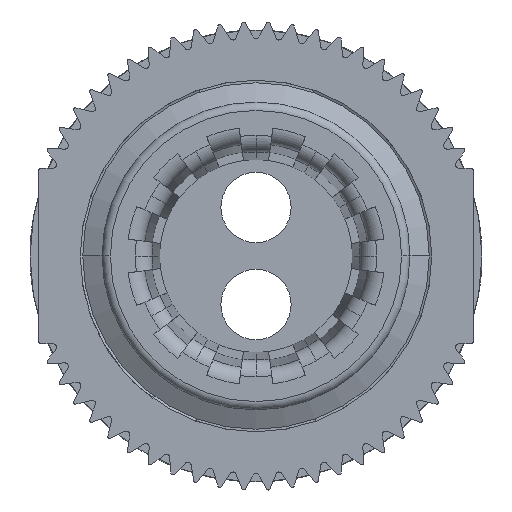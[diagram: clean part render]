
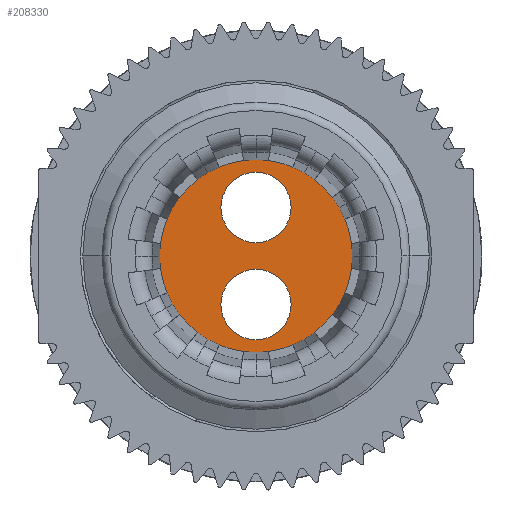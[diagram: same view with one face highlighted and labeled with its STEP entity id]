
A CAD part, left-side view. The second image highlights one B-rep face of the part: STEP entity #208330.
In plain terms, the highlighted planar face has unit normal (-1, 0, 0).
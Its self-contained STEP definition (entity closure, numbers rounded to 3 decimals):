
#207830=CARTESIAN_POINT('',(72.065,57.591,
-3.625));
#207840=DIRECTION('',(1.,0.,-0.));
#207850=DIRECTION('',(0.,0.,1.));
#207860=AXIS2_PLACEMENT_3D('',#207830,#207840,#207850);
#207870=PLANE('',#207860);
#207880=CARTESIAN_POINT('',(72.065,57.591,
0.));
#207890=DIRECTION('',(1.,0.,0.));
#207900=DIRECTION('',(0.,0.,-1.));
#207910=AXIS2_PLACEMENT_3D('',#207880,#207890,#207900);
#207920=CIRCLE('',#207910,7.25);
#207930=CARTESIAN_POINT('',(72.065,57.591,
-7.25));
#207940=VERTEX_POINT('',#207930);
#207950=CARTESIAN_POINT('',(72.065,57.591,
7.25));
#207960=VERTEX_POINT('',#207950);
#207970=EDGE_CURVE('',#207940,#207960,#207920,.T.);
#207980=ORIENTED_EDGE('',*,*,#207970,.F.);
#207990=EDGE_CURVE('',#207960,#207940,#207920,.T.);
#208000=ORIENTED_EDGE('',*,*,#207990,.F.);
#208010=EDGE_LOOP('',(#208000,#207980));
#208020=FACE_OUTER_BOUND('',#208010,.T.);
#208030=CARTESIAN_POINT('',(72.065,57.591,
2.9));
#208040=DIRECTION('',(1.,0.,0.));
#208050=DIRECTION('',(0.,-1.,0.));
#208060=AXIS2_PLACEMENT_3D('',#208030,#208040,#208050);
#208070=CIRCLE('',#208060,2.1);
#208080=CARTESIAN_POINT('',(72.065,55.491,
2.9));
#208090=VERTEX_POINT('',#208080);
#208100=CARTESIAN_POINT('',(72.065,59.691,
2.9));
#208110=VERTEX_POINT('',#208100);
#208120=EDGE_CURVE('',#208090,#208110,#208070,.T.);
#208130=ORIENTED_EDGE('',*,*,#208120,.T.);
#208140=EDGE_CURVE('',#208110,#208090,#208070,.T.);
#208150=ORIENTED_EDGE('',*,*,#208140,.T.);
#208160=EDGE_LOOP('',(#208150,#208130));
#208170=FACE_BOUND('',#208160,.T.);
#208180=CARTESIAN_POINT('',(72.065,57.591,
-2.9));
#208190=DIRECTION('',(1.,0.,0.));
#208200=DIRECTION('',(0.,-1.,0.));
#208210=AXIS2_PLACEMENT_3D('',#208180,#208190,#208200);
#208220=CIRCLE('',#208210,2.1);
#208230=CARTESIAN_POINT('',(72.065,55.491,
-2.9));
#208240=VERTEX_POINT('',#208230);
#208250=CARTESIAN_POINT('',(72.065,59.691,
-2.9));
#208260=VERTEX_POINT('',#208250);
#208270=EDGE_CURVE('',#208240,#208260,#208220,.T.);
#208280=ORIENTED_EDGE('',*,*,#208270,.T.);
#208290=EDGE_CURVE('',#208260,#208240,#208220,.T.);
#208300=ORIENTED_EDGE('',*,*,#208290,.T.);
#208310=EDGE_LOOP('',(#208300,#208280));
#208320=FACE_BOUND('',#208310,.T.);
#208330=ADVANCED_FACE('',(#208020,#208170,#208320),#207870,.F.);
